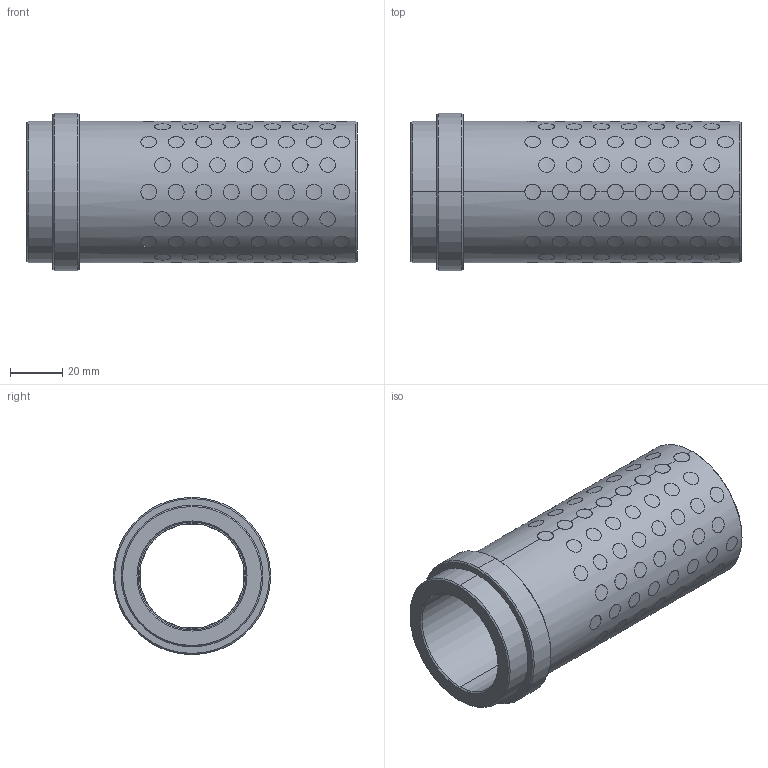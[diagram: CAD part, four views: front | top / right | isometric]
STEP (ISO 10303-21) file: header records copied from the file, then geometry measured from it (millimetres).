
FILE_DESCRIPTION((''),'2;1');
FILE_NAME('G31240116','2017-12-31T',('MANU'),(''),'PRO/ENGINEER BY PARAMETRIC TECHNOLOGY CORPORATION, 2012130','PRO/ENGINEER BY PARAMETRIC TECHNOLOGY CORPORATION, 2012130','');
FILE_SCHEMA(('CONFIG_CONTROL_DESIGN'));
Products named in the file (1): G31240116
Bounding box: 126 x 60 x 60 mm (x, y, z)
Volume: 132542.1 mm3; surface area: 71933.5 mm2
Topology: 121 solids, 121 shells, 747 faces, 1590 edges, 1056 vertices
Faces by surface type: cylinder 730, cone 12, plane 5
Entity records: 38736 total; most frequent: CARTESIAN_POINT 24215, ORIENTED_EDGE 3180, DIRECTION 2092, EDGE_CURVE 1590, VERTEX_POINT 1056, B_SPLINE_CURVE_WITH_KNOTS 1024, EDGE_LOOP 960, AXIS2_PLACEMENT_3D 779
